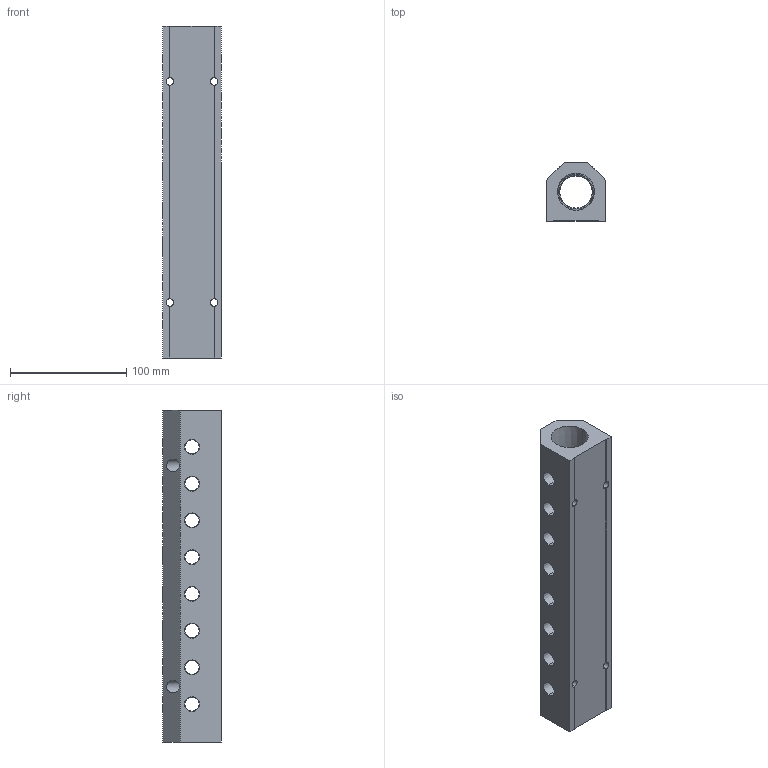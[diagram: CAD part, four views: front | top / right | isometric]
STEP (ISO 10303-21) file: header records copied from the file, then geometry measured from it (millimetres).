
FILE_DESCRIPTION (( 'STEP AP214' ), '1' );
FILE_NAME ('ALM8ACE-N4N16-286B.STEP', '2023-11-02T06:39:04', ( '' ), ( '' ), 'SwSTEP 2.0', 'SolidWorks 2020', '' );
FILE_SCHEMA (( 'AUTOMOTIVE_DESIGN' ));
Length unit declared in the file: millimetre
Products named in the file (1): ALM8ACE-N4N16-286B
Bounding box: 50.8 x 50.8 x 286 mm (x, y, z)
Volume: 439103.1 mm3; surface area: 90808.7 mm2
Topology: 1 solids, 1 shells, 364 faces, 975 edges, 634 vertices
Faces by surface type: plane 208, bspline 78, cone 56, cylinder 22
Entity records: 21125 total; most frequent: CARTESIAN_POINT 9148, ORIENTED_EDGE 1950, DIRECTION 1421, EDGE_CURVE 975, LINE 663, VECTOR 663, VERTEX_POINT 634, EDGE_LOOP 443
